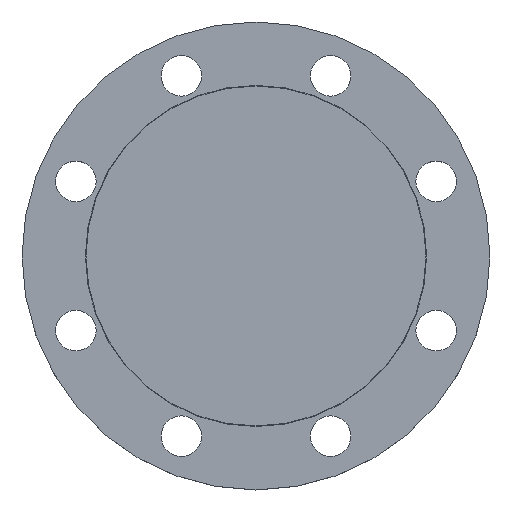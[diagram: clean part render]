
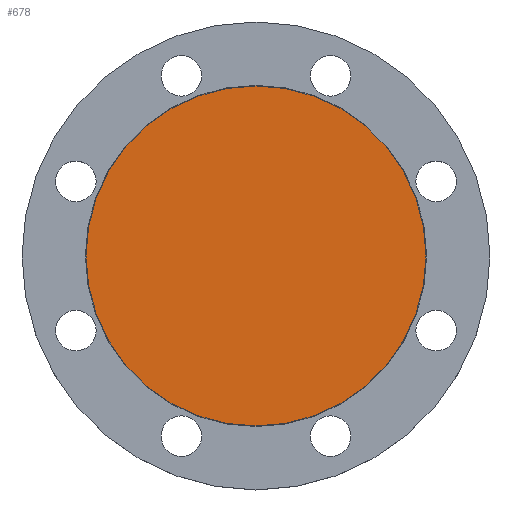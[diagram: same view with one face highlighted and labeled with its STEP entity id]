
A CAD part, top view. The second image highlights one B-rep face of the part: STEP entity #678.
In plain terms, the highlighted planar face has unit normal (0, 0, 1).
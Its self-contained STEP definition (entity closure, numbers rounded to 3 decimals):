
#93 = DIRECTION ( 'NONE',  ( -1., 0., 0. ) ) ;
#97 = DIRECTION ( 'NONE',  ( 0., 0., -1. ) ) ;
#114 = CARTESIAN_POINT ( 'NONE',  ( 0., 0., 0. ) ) ;
#138 = CARTESIAN_POINT ( 'NONE',  ( -109., 0., 0. ) ) ;
#170 = CARTESIAN_POINT ( 'NONE',  ( 109., 0., 0. ) ) ;
#178 = CIRCLE ( 'NONE', #438, 109. ) ;
#274 = DIRECTION ( 'NONE',  ( 1., 0., 0. ) ) ;
#275 = DIRECTION ( 'NONE',  ( 0., 0., 1. ) ) ;
#276 = CARTESIAN_POINT ( 'NONE',  ( 0., 0., 0. ) ) ;
#277 = PLANE ( 'NONE',  #607 ) ;
#278 = FACE_OUTER_BOUND ( 'NONE', #872, .T. ) ;
#420 = AXIS2_PLACEMENT_3D ( 'NONE', #114, #97, #93 ) ;
#422 = CIRCLE ( 'NONE', #420, 109. ) ;
#438 = AXIS2_PLACEMENT_3D ( 'NONE', #446, #445, #444 ) ;
#444 = DIRECTION ( 'NONE',  ( -1., 0., 0. ) ) ;
#445 = DIRECTION ( 'NONE',  ( 0., 0., -1. ) ) ;
#446 = CARTESIAN_POINT ( 'NONE',  ( 0., 0., 0. ) ) ;
#486 = EDGE_CURVE ( 'NONE', #956, #891, #178, .T. ) ;
#607 = AXIS2_PLACEMENT_3D ( 'NONE', #276, #275, #274 ) ;
#678 = ADVANCED_FACE ( 'NONE', ( #278 ), #277, .T. ) ;
#761 = ORIENTED_EDGE ( 'NONE', *, *, #486, .F. ) ;
#763 = ORIENTED_EDGE ( 'NONE', *, *, #944, .F. ) ;
#872 = EDGE_LOOP ( 'NONE', ( #761, #763 ) ) ;
#891 = VERTEX_POINT ( 'NONE', #170 ) ;
#944 = EDGE_CURVE ( 'NONE', #891, #956, #422, .T. ) ;
#956 = VERTEX_POINT ( 'NONE', #138 ) ;
